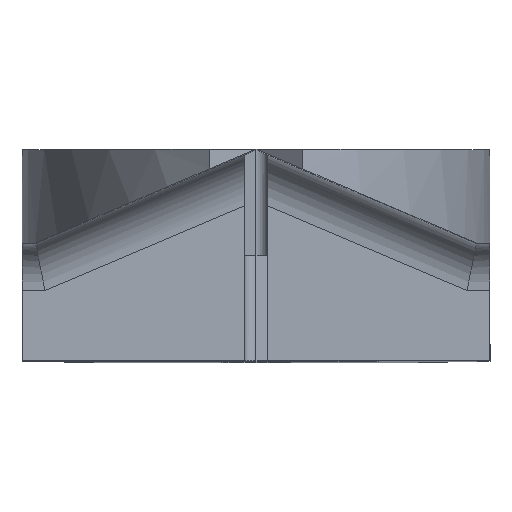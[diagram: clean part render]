
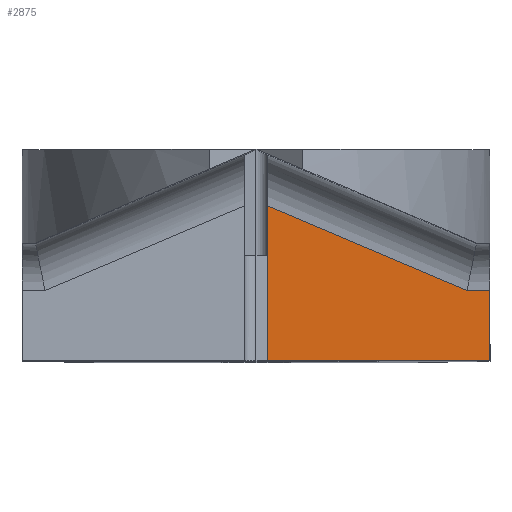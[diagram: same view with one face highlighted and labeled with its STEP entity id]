
A CAD part, top view. The second image highlights one B-rep face of the part: STEP entity #2875.
In plain terms, the highlighted planar face has unit normal (0, 0, 1).
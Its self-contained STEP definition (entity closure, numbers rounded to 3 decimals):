
#78 = EDGE_CURVE ( 'NONE', #2501, #648, #2920, .T. ) ;
#147 = CARTESIAN_POINT ( 'NONE',  ( 0.5, 0., 13. ) ) ;
#164 = CARTESIAN_POINT ( 'NONE',  ( 0.5, 6.615, 13. ) ) ;
#166 = EDGE_LOOP ( 'NONE', ( #857, #655, #1971, #1377, #349 ) ) ;
#250 = CARTESIAN_POINT ( 'NONE',  ( 4.368, 4.973, 13. ) ) ;
#294 = CARTESIAN_POINT ( 'NONE',  ( 0.5, 0., 13. ) ) ;
#313 = VECTOR ( 'NONE', #589, 1000. ) ;
#349 = ORIENTED_EDGE ( 'NONE', *, *, #78, .F. ) ;
#442 = VERTEX_POINT ( 'NONE', #1226 ) ;
#451 = DIRECTION ( 'NONE',  ( -1., 0., 0. ) ) ;
#455 = AXIS2_PLACEMENT_3D ( 'NONE', #294, #2478, #1837 ) ;
#556 = DIRECTION ( 'NONE',  ( 0., -1., 0. ) ) ;
#589 = DIRECTION ( 'NONE',  ( -1., 0., 0. ) ) ;
#616 = LINE ( 'NONE', #2886, #2633 ) ;
#648 = VERTEX_POINT ( 'NONE', #1790 ) ;
#655 = ORIENTED_EDGE ( 'NONE', *, *, #2580, .F. ) ;
#682 = FACE_OUTER_BOUND ( 'NONE', #166, .T. ) ;
#711 = CARTESIAN_POINT ( 'NONE',  ( 10., 0., 13. ) ) ;
#742 = CARTESIAN_POINT ( 'NONE',  ( 0.5, 4.5, 13. ) ) ;
#857 = ORIENTED_EDGE ( 'NONE', *, *, #2540, .F. ) ;
#948 = VECTOR ( 'NONE', #3126, 1000. ) ;
#963 = VECTOR ( 'NONE', #1445, 1000. ) ;
#1208 = VECTOR ( 'NONE', #556, 1000. ) ;
#1226 = CARTESIAN_POINT ( 'NONE',  ( 10., 3., 13. ) ) ;
#1359 = EDGE_CURVE ( 'NONE', #442, #648, #616, .T. ) ;
#1377 = ORIENTED_EDGE ( 'NONE', *, *, #1359, .T. ) ;
#1445 = DIRECTION ( 'NONE',  ( 0.921, -0.391, 0. ) ) ;
#1579 = VERTEX_POINT ( 'NONE', #147 ) ;
#1790 = CARTESIAN_POINT ( 'NONE',  ( 9.017, 3., 13. ) ) ;
#1812 = LINE ( 'NONE', #2502, #1208 ) ;
#1837 = DIRECTION ( 'NONE',  ( 1., 0., 0. ) ) ;
#1971 = ORIENTED_EDGE ( 'NONE', *, *, #3151, .F. ) ;
#2266 = LINE ( 'NONE', #742, #948 ) ;
#2281 = VERTEX_POINT ( 'NONE', #711 ) ;
#2478 = DIRECTION ( 'NONE',  ( 0., 0., 1. ) ) ;
#2501 = VERTEX_POINT ( 'NONE', #164 ) ;
#2502 = CARTESIAN_POINT ( 'NONE',  ( 10., 4.5, 13. ) ) ;
#2540 = EDGE_CURVE ( 'NONE', #1579, #2501, #2266, .T. ) ;
#2580 = EDGE_CURVE ( 'NONE', #2281, #1579, #2758, .T. ) ;
#2633 = VECTOR ( 'NONE', #451, 1000. ) ;
#2758 = LINE ( 'NONE', #2939, #313 ) ;
#2875 = ADVANCED_FACE ( 'NONE', ( #682 ), #2966, .T. ) ;
#2886 = CARTESIAN_POINT ( 'NONE',  ( 5.25, 3., 13. ) ) ;
#2920 = LINE ( 'NONE', #250, #963 ) ;
#2939 = CARTESIAN_POINT ( 'NONE',  ( 5.221, 0., 13. ) ) ;
#2966 = PLANE ( 'NONE',  #455 ) ;
#3126 = DIRECTION ( 'NONE',  ( 0., 1., 0. ) ) ;
#3151 = EDGE_CURVE ( 'NONE', #442, #2281, #1812, .T. ) ;
